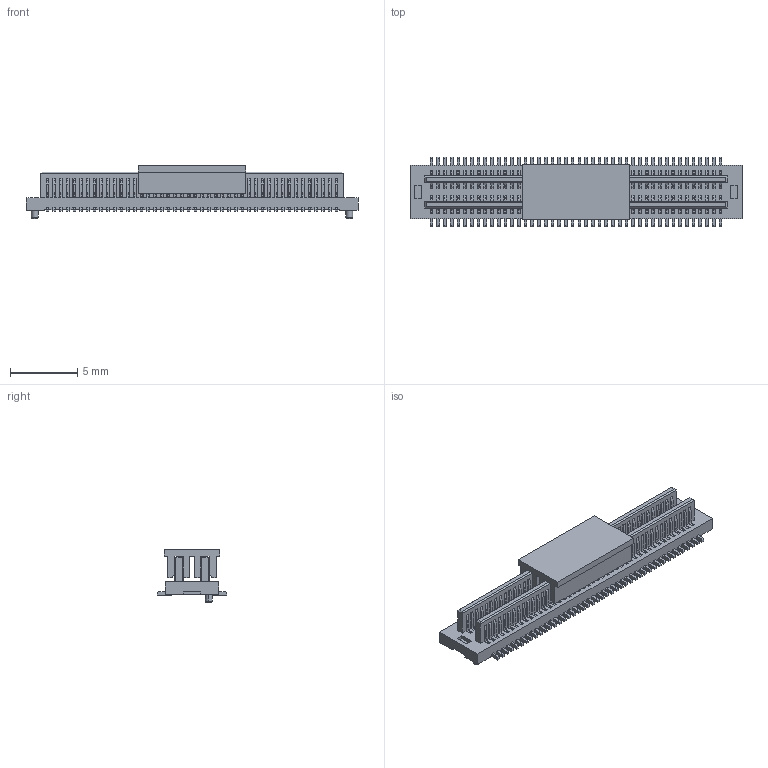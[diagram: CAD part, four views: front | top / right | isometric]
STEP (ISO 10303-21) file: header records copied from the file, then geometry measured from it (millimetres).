
FILE_DESCRIPTION(('CATIA V5 STEP Exchange'),'2;1');
FILE_NAME('F:\黄富鸿\板对板\PBB05\公座\H1.0\编带+盖\HC-PBB05-2-88-M-H1.0-G1-R-P-04（BTB0.5 双槽 公座 立贴 带柱 编带+盖）-HCTL.stp','2025-12-09T01:15:03+00:00',('none'),('none'),'CATIA Version 5 Release 20 GA (IN-10)','CATIA V5 STEP AP203','none');
FILE_SCHEMA(('CONFIG_CONTROL_DESIGN'));
Products named in the file (1): Part2
Bounding box: 24.7 x 5.2 x 3.95 mm (x, y, z)
Volume: 172.2 mm3; surface area: 1450.3 mm2
Topology: 90 solids, 90 shells, 5008 faces, 15334 edges, 10160 vertices
Faces by surface type: plane 3240, cylinder 1764, torus 4
Entity records: 146179 total; most frequent: ORIENTED_EDGE 30668, CARTESIAN_POINT 27132, DIRECTION 16144, EDGE_CURVE 15334, VECTOR 11446, LINE 11446, VERTEX_POINT 10160, EDGE_LOOP 5014
